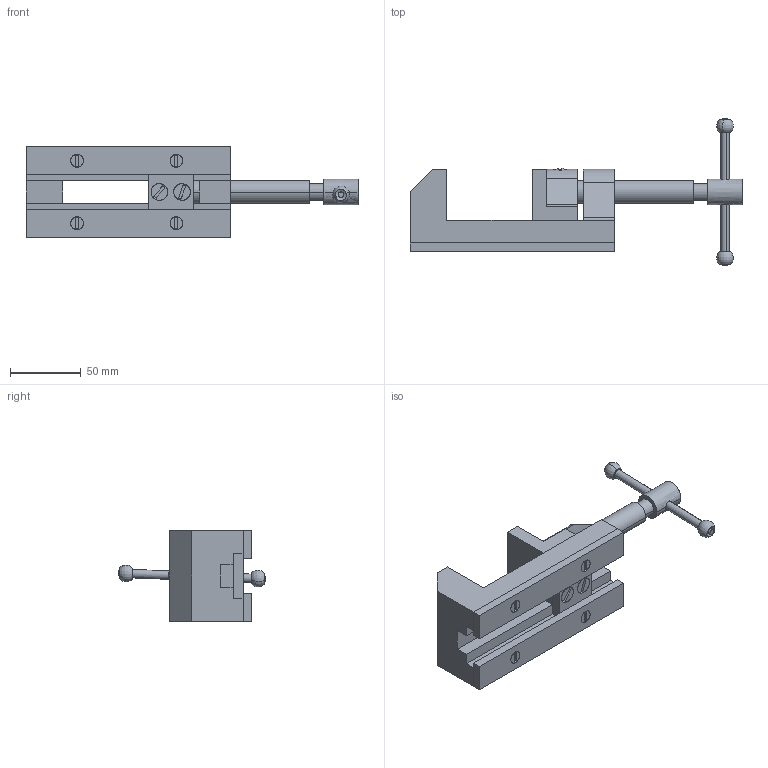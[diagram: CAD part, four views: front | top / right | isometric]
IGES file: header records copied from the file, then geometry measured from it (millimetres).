
Start section: SolidWorks IGES file using analytic representation for surfaces
Global section: file name: C:\SOLIDWORKS\solidworks_2012_NEW\c12_sw2012\2010_tutorials\Bench Vice\Bench Vice.IGS; native system: SolidWorks 2012; preprocessor: SolidWorks 2012; author: cadcim; date: 120319.144028; units: millimetre
Bounding box: 234 x 104.08 x 64 mm (x, y, z)
Surface area: 82213.5 mm2 (no closed solid volume)
Topology: 0 solids, 0 shells, 244 faces, 3225 edges, 3201 vertices
Faces by surface type: revolution 137, bspline 107
